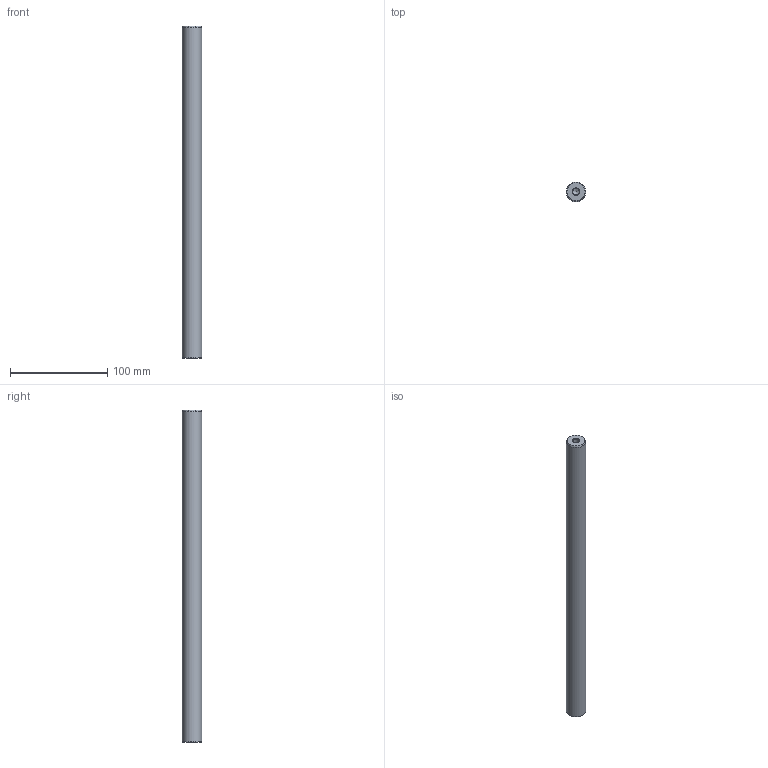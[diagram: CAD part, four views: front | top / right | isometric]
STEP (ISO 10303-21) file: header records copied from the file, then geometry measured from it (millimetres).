
FILE_DESCRIPTION( ( 'STEP AP214' ), '1' );
FILE_NAME( 'U:/Etudes/Top Solid/BIBLIO_Fournisseur/Colonnes UG/Ø20x342.step', '2004-12-22T12:40:56', ( ' ' ), ( ' ' ), 'XStep 1.0', ' ', ' ' );
FILE_SCHEMA( ( 'automotive_design' ) );
Length unit declared in the file: metre
Products named in the file (1): 1
Bounding box: 20 x 20 x 342 mm (x, y, z)
Volume: 105872.4 mm3; surface area: 22933 mm2
Topology: 1 solids, 1 shells, 13 faces, 27 edges, 16 vertices
Faces by surface type: cone 6, cylinder 5, plane 2
Full cylindrical faces by diameter (mm): 6.647 x4, 20 x1
Entity records: 382 total; most frequent: DIRECTION 52, CARTESIAN_POINT 40, AXIS2_PLACEMENT_3D 26, EDGE_LOOP 24, ORIENTED_EDGE 24, FACE_OUTER_BOUND 18, VERTEX_POINT 14, STYLED_ITEM 13
